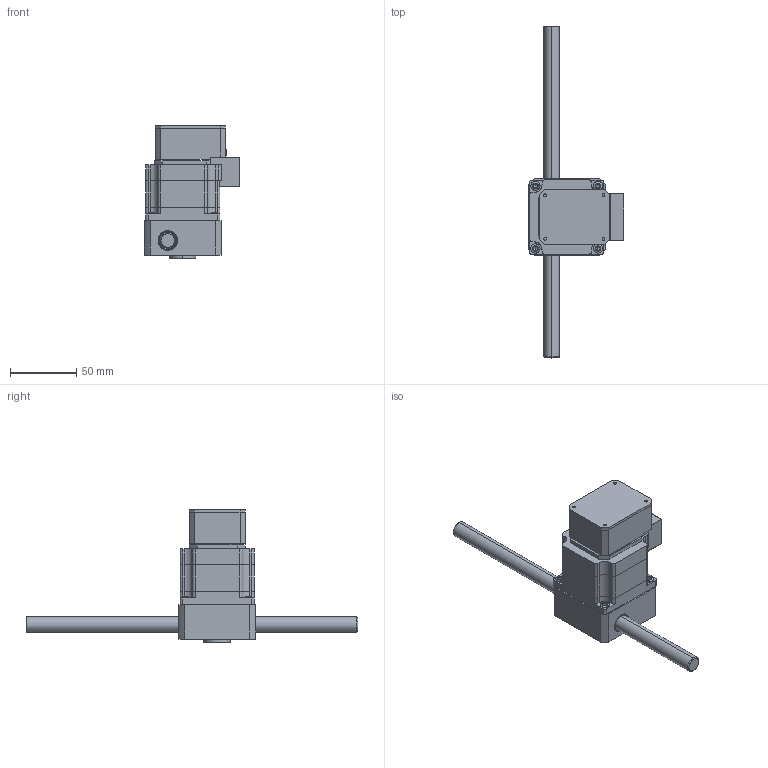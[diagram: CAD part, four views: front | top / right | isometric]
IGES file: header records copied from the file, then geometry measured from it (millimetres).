
Start section: SolidWorks IGES file using analytic representation for surfaces
Global section: file name: C:\Users\render\Documents\CAD Files\Integrated-Actuators\RRA-Series\RRA-23\RRA-23.IGS; native system: SolidWorks 2009; preprocessor: SolidWorks 2009; author: render; date: 100531.085735; units: millimetre
Bounding box: 72 x 250 x 100.05 mm (x, y, z)
Surface area: 90097.9 mm2 (no closed solid volume)
Topology: 0 solids, 0 shells, 1079 faces, 10362 edges, 10336 vertices
Faces by surface type: bspline 711, revolution 368
